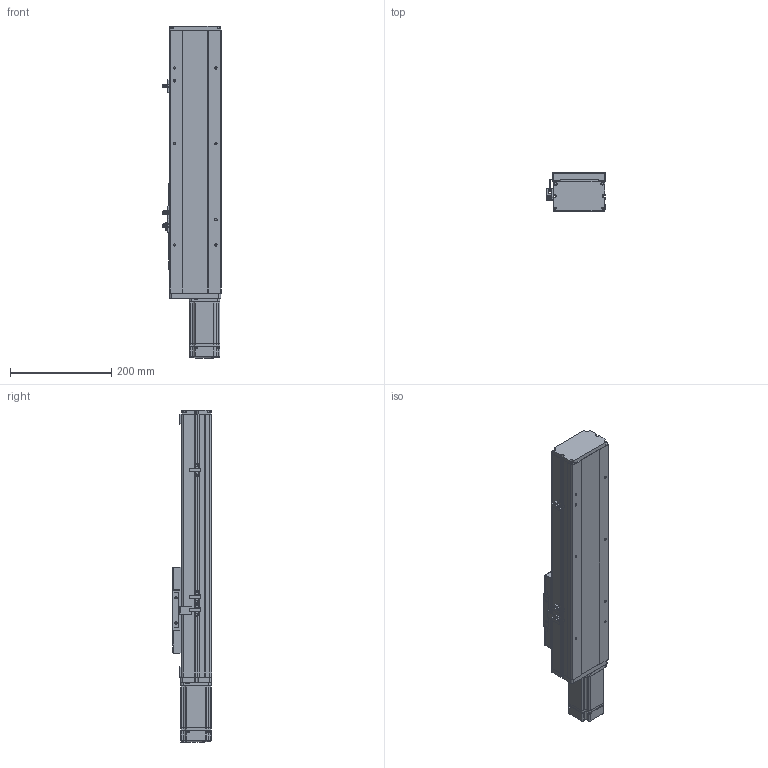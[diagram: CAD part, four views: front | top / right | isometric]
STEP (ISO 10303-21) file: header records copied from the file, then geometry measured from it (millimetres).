
FILE_DESCRIPTION (( 'STEP AP214' ), '1' );
FILE_NAME ('TPF10-BC-250-P20.STEP', '2023-03-27T00:28:35', ( '' ), ( '' ), 'SwSTEP 2.0', 'SolidWorks 2020', '' );
FILE_SCHEMA (( 'AUTOMOTIVE_DESIGN' ));
Length unit declared in the file: millimetre
Products named in the file (8): 葩璃 TPF10-BC-008 耜醱啣^TPF10-BC-P20; 葩璃 侂狟400W^TPF10-BC-P20; 葩璃 TPE10 賑雄殤 TPE10^TPF10-BC-P20; 葩璃 TPF10-BL-002 耜裔ZTMT-102B-04^TPF10-BC-P20; 葩璃 詩湍75^TPF10-BC-P20; 葩璃 TPF10-BL-001 菁釱MZ-102A-01^TPF10-BC-P20_200W; TPF10-BC-250-P20; 葩璃 pm-t65-672^TPF10-BC-P20
Assembly tree (10 placements, depth 2):
  TPF10-BC-250-P20
    葩璃 TPF10-BL-001 菁釱MZ-102A-01^TPF10-BC-P20_200W
    葩璃 TPF10-BL-002 耜裔ZTMT-102B-04^TPF10-BC-P20  x2
    葩璃 詩湍75^TPF10-BC-P20
    葩璃 TPF10-BC-008 耜醱啣^TPF10-BC-P20
    葩璃 TPE10 賑雄殤 TPE10^TPF10-BC-P20
    葩璃 pm-t65-672^TPF10-BC-P20  x3
    葩璃 侂狟400W^TPF10-BC-P20
Bounding box: 116.7 x 78.5 x 656.5 mm (x, y, z)
Volume: 2218118.3 mm3; surface area: 526707 mm2
Topology: 17 solids, 17 shells, 1277 faces, 3400 edges, 2204 vertices
Faces by surface type: plane 781, cylinder 402, cone 68, bspline 26
Entity records: 33610 total; most frequent: CARTESIAN_POINT 6390, DIRECTION 5489, ORIENTED_EDGE 5348, EDGE_CURVE 2674, AXIS2_PLACEMENT_3D 1843, LINE 1803, VECTOR 1803, VERTEX_POINT 1744
